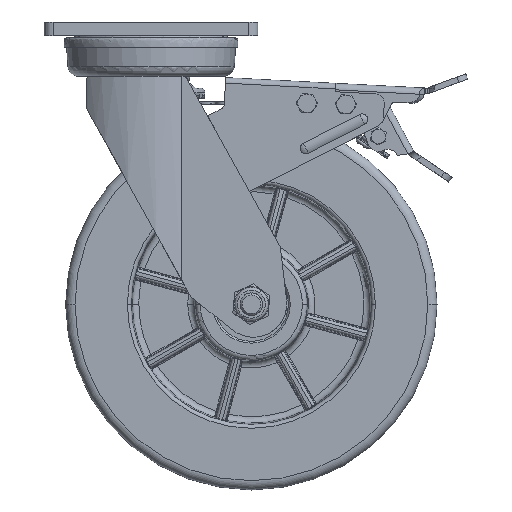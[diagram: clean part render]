
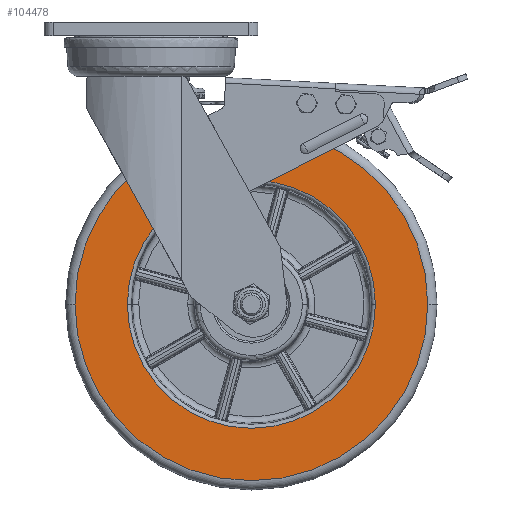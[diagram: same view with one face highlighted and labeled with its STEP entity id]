
A CAD part, front view. The second image highlights one B-rep face of the part: STEP entity #104478.
In plain terms, the highlighted planar face has unit normal (0, -1, 0).
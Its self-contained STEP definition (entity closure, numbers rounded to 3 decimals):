
#1591 = EDGE_LOOP ( 'NONE', ( #22910, #124025 ) ) ;
#3346 = PLANE ( 'NONE',  #110073 ) ;
#6242 = EDGE_CURVE ( 'NONE', #99108, #18626, #25546, .T. ) ;
#7270 = CARTESIAN_POINT ( 'NONE',  ( -41., -24.75, -152. ) ) ;
#13903 = ORIENTED_EDGE ( 'NONE', *, *, #55111, .T. ) ;
#14991 = CARTESIAN_POINT ( 'NONE',  ( 54., -24.75, -76.875 ) ) ;
#18626 = VERTEX_POINT ( 'NONE', #95503 ) ;
#20137 = CARTESIAN_POINT ( 'NONE',  ( 54., -24.75, -152. ) ) ;
#20514 = DIRECTION ( 'NONE',  ( -1., 0., 0. ) ) ;
#22910 = ORIENTED_EDGE ( 'NONE', *, *, #99224, .T. ) ;
#25546 = CIRCLE ( 'NONE', #106950, 66.797 ) ;
#26693 = VERTEX_POINT ( 'NONE', #7270 ) ;
#27354 = DIRECTION ( 'NONE',  ( 0., -1., 0. ) ) ;
#30121 = AXIS2_PLACEMENT_3D ( 'NONE', #97012, #75862, #54718 ) ;
#31781 = DIRECTION ( 'NONE',  ( 0., -1., 0. ) ) ;
#34847 = AXIS2_PLACEMENT_3D ( 'NONE', #37081, #128802, #73436 ) ;
#37081 = CARTESIAN_POINT ( 'NONE',  ( 54., -24.75, -152. ) ) ;
#42686 = EDGE_CURVE ( 'NONE', #26693, #68851, #97601, .T. ) ;
#43449 = DIRECTION ( 'NONE',  ( -1., 0., 0. ) ) ;
#47788 = DIRECTION ( 'NONE',  ( -1., 0., 0. ) ) ;
#48326 = AXIS2_PLACEMENT_3D ( 'NONE', #20137, #31781, #43449 ) ;
#54718 = DIRECTION ( 'NONE',  ( -1., 0., 0. ) ) ;
#55111 = EDGE_CURVE ( 'NONE', #68851, #26693, #90246, .T. ) ;
#64977 = CARTESIAN_POINT ( 'NONE',  ( 54., -24.75, -152. ) ) ;
#68851 = VERTEX_POINT ( 'NONE', #121887 ) ;
#73436 = DIRECTION ( 'NONE',  ( -1., 0., 0. ) ) ;
#75862 = DIRECTION ( 'NONE',  ( 0., -1., 0. ) ) ;
#78590 = DIRECTION ( 'NONE',  ( 0., 1., 0. ) ) ;
#81310 = FACE_OUTER_BOUND ( 'NONE', #140301, .T. ) ;
#90246 = CIRCLE ( 'NONE', #48326, 95. ) ;
#95503 = CARTESIAN_POINT ( 'NONE',  ( -12.797, -24.75, -152. ) ) ;
#97012 = CARTESIAN_POINT ( 'NONE',  ( 54., -24.75, -152. ) ) ;
#97601 = CIRCLE ( 'NONE', #30121, 95. ) ;
#99108 = VERTEX_POINT ( 'NONE', #134012 ) ;
#99224 = EDGE_CURVE ( 'NONE', #18626, #99108, #102363, .T. ) ;
#102363 = CIRCLE ( 'NONE', #34847, 66.797 ) ;
#104478 = ADVANCED_FACE ( 'NONE', ( #81310, #126457 ), #3346, .T. ) ;
#106950 = AXIS2_PLACEMENT_3D ( 'NONE', #64977, #78590, #20514 ) ;
#110073 = AXIS2_PLACEMENT_3D ( 'NONE', #14991, #27354, #47788 ) ;
#121256 = ORIENTED_EDGE ( 'NONE', *, *, #42686, .T. ) ;
#121887 = CARTESIAN_POINT ( 'NONE',  ( 149., -24.75, -152. ) ) ;
#124025 = ORIENTED_EDGE ( 'NONE', *, *, #6242, .T. ) ;
#126457 = FACE_BOUND ( 'NONE', #1591, .T. ) ;
#128802 = DIRECTION ( 'NONE',  ( 0., 1., 0. ) ) ;
#134012 = CARTESIAN_POINT ( 'NONE',  ( 120.797, -24.75, -152. ) ) ;
#140301 = EDGE_LOOP ( 'NONE', ( #13903, #121256 ) ) ;
